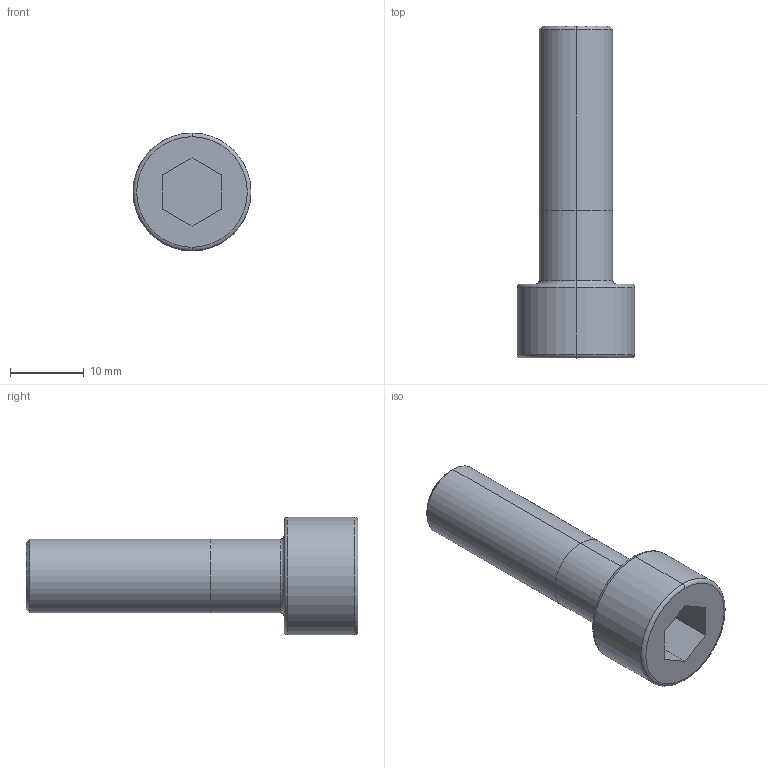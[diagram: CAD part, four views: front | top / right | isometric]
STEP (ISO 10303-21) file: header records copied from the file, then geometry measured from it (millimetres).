
FILE_DESCRIPTION (( 'STEP AP214' ), '1' );
FILE_NAME ('M_10X035.STEP', '2016-03-08T00:40:09', ( '' ), ( '' ), 'SwSTEP 2.0', 'SolidWorks 2014', '' );
FILE_SCHEMA (( 'AUTOMOTIVE_DESIGN' ));
Length unit declared in the file: millimetre
Products named in the file (1): M_10X035
Bounding box: 16 x 45 x 16 mm (x, y, z)
Volume: 4308.9 mm3; surface area: 2188.1 mm2
Topology: 1 solids, 1 shells, 25 faces, 52 edges, 32 vertices
Faces by surface type: plane 11, torus 6, cylinder 6, cone 2
Entity records: 746 total; most frequent: DIRECTION 130, CARTESIAN_POINT 110, ORIENTED_EDGE 104, EDGE_CURVE 52, AXIS2_PLACEMENT_3D 52, VERTEX_POINT 32, EDGE_LOOP 28, LINE 26
